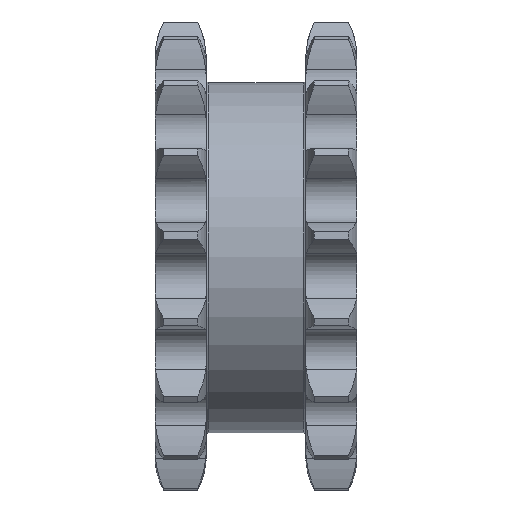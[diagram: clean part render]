
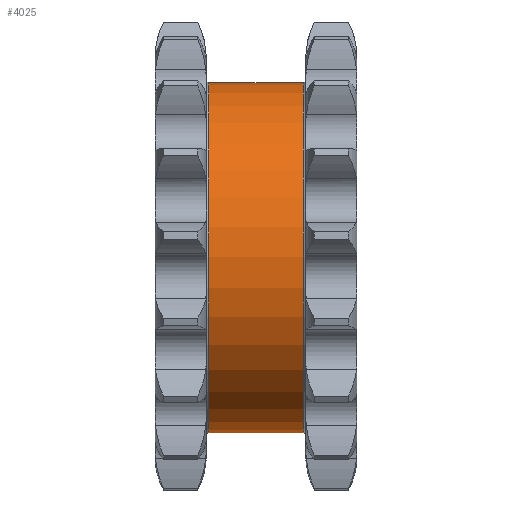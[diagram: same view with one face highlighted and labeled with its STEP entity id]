
A CAD part, top view. The second image highlights one B-rep face of the part: STEP entity #4025.
In plain terms, the highlighted cylindrical face has radius 55.5 mm (diameter 111 mm), a full revolution.
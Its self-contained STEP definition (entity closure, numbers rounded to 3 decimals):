
#89=FACE_BOUND('',#814,.T.);
#590=FACE_OUTER_BOUND('',#813,.T.);
#813=EDGE_LOOP('',(#3606));
#814=EDGE_LOOP('',(#3607));
#1040=CIRCLE('',#4462,55.5);
#1041=CIRCLE('',#4464,55.5);
#1750=VERTEX_POINT('',#8121);
#1751=VERTEX_POINT('',#8124);
#2387=EDGE_CURVE('',#1750,#1750,#1040,.T.);
#2388=EDGE_CURVE('',#1751,#1751,#1041,.T.);
#3606=ORIENTED_EDGE('',*,*,#2388,.F.);
#3607=ORIENTED_EDGE('',*,*,#2387,.T.);
#3811=CYLINDRICAL_SURFACE('',#4463,55.5);
#4025=ADVANCED_FACE('',(#590,#89),#3811,.T.);
#4462=AXIS2_PLACEMENT_3D('',#8122,#5471,#5472);
#4463=AXIS2_PLACEMENT_3D('',#8123,#5473,#5474);
#4464=AXIS2_PLACEMENT_3D('',#8125,#5475,#5476);
#5471=DIRECTION('center_axis',(-1.,0.,0.));
#5472=DIRECTION('ref_axis',(0.,0.,1.));
#5473=DIRECTION('center_axis',(-1.,0.,0.));
#5474=DIRECTION('ref_axis',(0.,1.,0.));
#5475=DIRECTION('center_axis',(-1.,0.,0.));
#5476=DIRECTION('ref_axis',(0.,0.,1.));
#8121=CARTESIAN_POINT('',(38.761,112.376,0.));
#8122=CARTESIAN_POINT('Origin',(38.761,56.876,0.));
#8123=CARTESIAN_POINT('Origin',(23.761,56.876,0.));
#8124=CARTESIAN_POINT('',(8.761,112.376,0.));
#8125=CARTESIAN_POINT('Origin',(8.761,56.876,0.));
